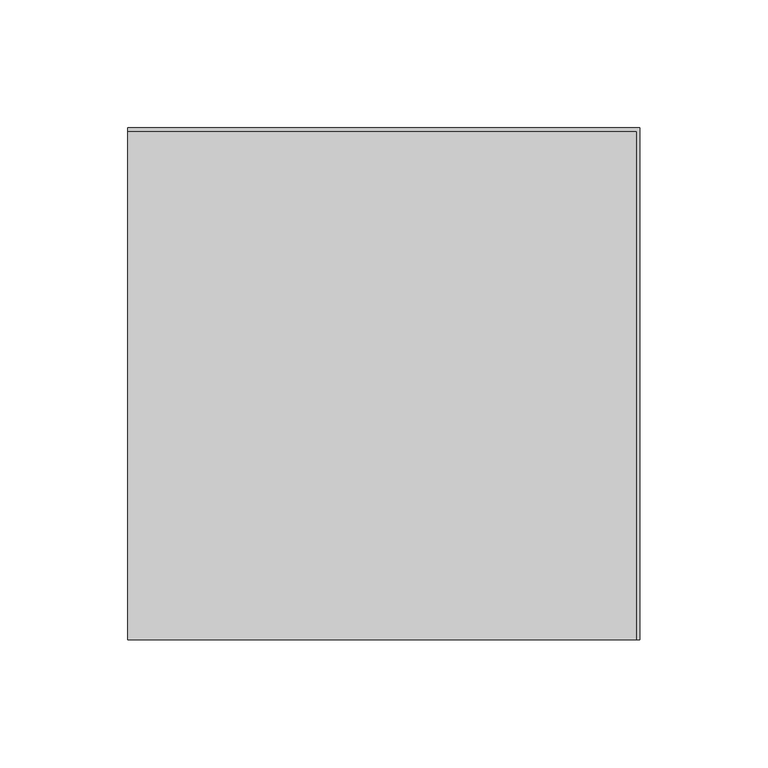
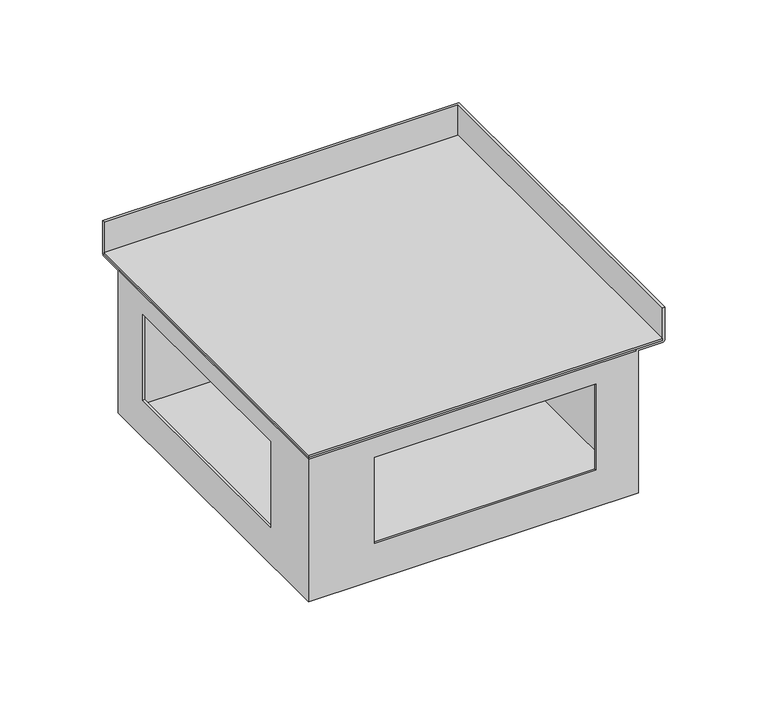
"""IFC4 building model written with IfcOpenShell, lengths in millimetres: proxy geometry, TECHNO_Угловой элемент_KVU : 200_105_90°."""

from ifc_helpers import new_model, si_unit, frame, origin, place, context, project, spatial, polyline, circle_curve, ellipse_curve, outline, extrude, source, transform, mapped, element, save
from ifc_brep_helpers import plane_surface, cylinder_surface, advanced_brep


def mechanical_equipment_9d287563(model_context):
    return source(origin(), model_context, "Body", "SolidModel", [
        extrude(outline(polyline([(0.0, 98.8), (198.8, 98.8), (198.8, -100.0), (0.0, -100.0), (0.0, 98.8)])), frame((0.0, 0.0, -19.3), z_axis=(0.0, 0.0, 1.0), x_axis=(1.0, 0.0, 0.0)), (0.0, 0.0, 1.0), 1.2),
        advanced_brep(
        [(1.2, 84.0, -103.8), (1.2, -98.8, -103.8), (184.0, -98.8, -103.8), (184.0, 84.0, -103.8), (0.0, 85.2, -105.0), (185.2, 85.2, -105.0), (185.2, -100.0, -105.0), (0.0, -100.0, -105.0), (0.0, 85.2, -20.5), (0.0, -100.0, -20.5), (0.0, 84.0, -20.5), (0.0, 85.2, -19.3), (0.0, 98.8, -19.3), (0.0, 98.8, 0.0), (0.0, 100.0, 0.0), (0.0, 100.0, -19.3), (0.0, 98.8, -20.5), (0.0, -63.0, -32.2), (0.0, -63.0, -83.2), (0.0, 61.4, -83.2), (0.0, 61.4, -32.2), (185.2, -100.0, -20.5), (198.8, -100.0, -20.5), (200.0, -100.0, -19.3), (200.0, -100.0, 0.0), (198.8, -100.0, 0.0), (198.8, -100.0, -19.3), (185.2, -100.0, -19.3), (184.0, -100.0, -20.5), (37.0, -100.0, -83.2), (37.0, -100.0, -32.2), (161.4, -100.0, -32.2), (161.4, -100.0, -83.2), (185.2, 85.2, -20.5), (1.2, 85.2, -19.3), (1.2, -98.8, -19.3), (185.2, -98.8, -19.3), (198.8, 98.8, -19.3), (185.2, -84.0, -19.3), (16.0, -84.0, -19.3), (16.0, 85.2, -19.3), (185.2, 85.2, -19.3), (16.0, -84.0, -20.5), (16.0, 84.0, -20.5), (184.0, -84.0, -20.5), (184.0, -98.8, -20.5), (1.2, -98.8, -20.5), (1.2, 84.0, -20.5), (1.2, -63.0, -83.2), (1.2, -63.0, -32.2), (1.2, 61.4, -32.2), (1.2, 61.4, -83.2), (37.0, -98.8, -32.2), (37.0, -98.8, -83.2), (161.4, -98.8, -83.2), (161.4, -98.8, -32.2), (200.0, 100.0, -19.3), (200.0, 100.0, 0.0), (198.8, 98.8, 0.0), (198.8, 98.8, -20.5), (184.0, 84.0, -20.5)],
        [
            (0, 1),
            (1, 2),
            (2, 3),
            (3, 0),
            (4, 5),
            (5, 6),
            (6, 7),
            (7, 4),
            (8, 4),
            (7, 9),
            (9, 10),
            (10, 11, circle_curve(frame((0.0, 85.2, -20.5), z_axis=(-1.0, 0.0, 0.0), x_axis=(0.0, -1.0, 0.0)), 1.2)),
            (11, 12),
            (12, 13),
            (13, 14),
            (14, 15),
            (15, 16, circle_curve(frame((0.0, 98.8, -19.3), z_axis=(-1.0, 0.0, 0.0), x_axis=(0.0, -1.0, 0.0)), 1.2)),
            (16, 8),
            (17, 18),
            (18, 19),
            (19, 20),
            (20, 17),
            (6, 21),
            (21, 22),
            (22, 23, circle_curve(frame((198.8, -100.0, -19.3), z_axis=(0.0, -1.0, 0.0), x_axis=(-1.0, 0.0, 0.0)), 1.2)),
            (23, 24),
            (24, 25),
            (25, 26),
            (26, 27),
            (27, 28, circle_curve(frame((185.2, -100.0, -20.5), z_axis=(0.0, -1.0, 0.0), x_axis=(-1.0, 0.0, 0.0)), 1.2)),
            (28, 9),
            (29, 30),
            (30, 31),
            (31, 32),
            (32, 29),
            (8, 33),
            (33, 5),
            (33, 21),
            (34, 35),
            (35, 36),
            (36, 27),
            (26, 37),
            (37, 12),
            (11, 34),
            (38, 39),
            (39, 40),
            (40, 41),
            (41, 38),
            (39, 42),
            (42, 43),
            (43, 40, circle_curve(frame((16.0, 85.2, -20.5), z_axis=(-1.0, 0.0, 0.0), x_axis=(0.0, -1.0, 0.0)), 1.2)),
            (38, 44, circle_curve(frame((185.2, -84.0, -20.5), z_axis=(0.0, -1.0, 0.0), x_axis=(-1.0, 0.0, 0.0)), 1.2)),
            (44, 42),
            (44, 45),
            (45, 46),
            (46, 47),
            (47, 43),
            (46, 1),
            (0, 47),
            (48, 49),
            (49, 50),
            (50, 51),
            (51, 48),
            (45, 2),
            (52, 53),
            (53, 54),
            (54, 55),
            (55, 52),
            (34, 10, ellipse_curve(frame((1.2, 85.2, -20.5), z_axis=(0.7071067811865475, -0.7071067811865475, 0.0), x_axis=(0.7071067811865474, 0.7071067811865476, 0.0)), 1.6970563, 1.2)),
            (9, 35, ellipse_curve(frame((1.2, -98.8, -20.5), z_axis=(-0.7071067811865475, 0.7071067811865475, 0.0), x_axis=(0.7071067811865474, 0.7071067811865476, 0.0)), 1.6970563, 1.2)),
            (28, 36, ellipse_curve(frame((185.2, -98.8, -20.5), z_axis=(-0.7071067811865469, 0.7071067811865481, 0.0), x_axis=(-0.7071067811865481, -0.7071067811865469, 0.0)), 1.6970563, 1.2)),
            (23, 56),
            (56, 57),
            (57, 24),
            (57, 14),
            (13, 58),
            (58, 25),
            (58, 37),
            (16, 59),
            (59, 22),
            (59, 56, ellipse_curve(frame((198.8, 98.8, -19.3), z_axis=(0.7071067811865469, -0.7071067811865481, 0.0), x_axis=(-0.7071067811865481, -0.7071067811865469, 0.0)), 1.6970563, 1.2)),
            (56, 15),
            (41, 60, ellipse_curve(frame((185.2, 85.2, -20.5), z_axis=(0.7071067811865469, -0.7071067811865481, 0.0), x_axis=(-0.7071067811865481, -0.7071067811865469, 0.0)), 1.6970563, 1.2)),
            (60, 44),
            (60, 3),
            (43, 60),
            (48, 18),
            (17, 49),
            (51, 19),
            (50, 20),
            (52, 30),
            (29, 53),
            (55, 31),
            (54, 32),
        ],
        [
            plane_surface(frame((0.0, 84.0, -103.8), z_axis=(0.0, 0.0, 1.0), x_axis=(0.0, -1.0, 0.0))),
            plane_surface(frame((0.0, 84.0, -105.0), z_axis=(0.0, 0.0, -1.0), x_axis=(0.0, 1.0, 0.0))),
            plane_surface(frame((0.0, 84.0, -103.8), z_axis=(-1.0, 0.0, 0.0), x_axis=(0.0, 0.0, -1.0))),
            plane_surface(frame((0.0, -100.0, -103.8), z_axis=(0.0, -1.0, 0.0), x_axis=(0.0, 0.0, -1.0))),
            plane_surface(frame((0.0, 85.2, -105.0), z_axis=(0.0, 1.0, 0.0), x_axis=(0.0, 0.0, -1.0))),
            plane_surface(frame((185.2, -100.0, -105.0), z_axis=(1.0, 0.0, 0.0), x_axis=(0.0, 0.0, -1.0))),
            plane_surface(frame((1.2, 85.2, -19.3), z_axis=(0.0, 0.0, 1.0), x_axis=(0.0, -1.0, 0.0))),
            plane_surface(frame((16.0, 85.2, -19.3), z_axis=(1.0, 0.0, 0.0), x_axis=(0.0, -1.0, 0.0))),
            plane_surface(frame((16.0, -84.0, -19.3), z_axis=(0.0, 1.0, 0.0), x_axis=(1.0, 0.0, 0.0))),
            plane_surface(frame((16.0, 85.2, -20.5), z_axis=(0.0, 0.0, -1.0), x_axis=(0.0, -1.0, 0.0))),
            plane_surface(frame((1.2, 85.2, -20.5), z_axis=(1.0, 0.0, 0.0), x_axis=(0.0, -1.0, 0.0))),
            plane_surface(frame((1.2, -98.8, -20.5), z_axis=(0.0, 1.0, 0.0), x_axis=(1.0, 0.0, 0.0))),
            cylinder_surface(frame((1.2, 85.2, -20.5), z_axis=(0.0, 1.0, 0.0), x_axis=(-1.0, 0.0, 0.0)), 1.2),
            cylinder_surface(frame((0.0, -98.8, -20.5), z_axis=(-1.0, 0.0, 0.0), x_axis=(0.0, -1.0, 0.0)), 1.2),
            plane_surface(frame((200.0, -100.0, -19.3), z_axis=(1.0, 0.0, 0.0), x_axis=(0.0, 1.0, 0.0))),
            plane_surface(frame((200.0, -100.0, 0.0), z_axis=(0.0, 0.0, 1.0), x_axis=(0.0, 1.0, 0.0))),
            plane_surface(frame((198.8, -100.0, 0.0), z_axis=(-1.0, 0.0, 0.0), x_axis=(0.0, 1.0, 0.0))),
            plane_surface(frame((185.2, -100.0, -20.5), z_axis=(0.0, 0.0, -1.0), x_axis=(0.0, 1.0, 0.0))),
            cylinder_surface(frame((198.8, -100.0, -19.3), z_axis=(0.0, -1.0, 0.0), x_axis=(-1.0, 0.0, 0.0)), 1.2),
            plane_surface(frame((200.0, 100.0, -19.3), z_axis=(0.0, 1.0, 0.0), x_axis=(-1.0, 0.0, 0.0))),
            plane_surface(frame((198.8, 98.8, 0.0), z_axis=(0.0, -1.0, 0.0), x_axis=(-1.0, 0.0, 0.0))),
            cylinder_surface(frame((100.0, 98.8, -19.3), z_axis=(1.0, 0.0, 0.0), x_axis=(0.0, -1.0, 0.0)), 1.2),
            cylinder_surface(frame((185.2, -100.0, -20.5), z_axis=(0.0, -1.0, 0.0), x_axis=(-1.0, 0.0, 0.0)), 1.2),
            plane_surface(frame((184.0, -100.0, -20.5), z_axis=(-1.0, 0.0, 0.0), x_axis=(0.0, 1.0, 0.0))),
            cylinder_surface(frame((100.0, 85.2, -20.5), z_axis=(1.0, 0.0, 0.0), x_axis=(0.0, -1.0, 0.0)), 1.2),
            plane_surface(frame((184.0, 84.0, -20.5), z_axis=(0.0, -1.0, 0.0), x_axis=(-1.0, 0.0, 0.0))),
            plane_surface(frame((1.2, -63.0, -32.2), z_axis=(0.0, 1.0, 0.0), x_axis=(-1.0, 0.0, 0.0))),
            plane_surface(frame((1.2, -63.0, -83.2), z_axis=(0.0, 0.0, 1.0), x_axis=(-1.0, 0.0, 0.0))),
            plane_surface(frame((1.2, 61.4, -83.2), z_axis=(0.0, -1.0, 0.0), x_axis=(-1.0, 0.0, 0.0))),
            plane_surface(frame((1.2, 61.4, -32.2), z_axis=(0.0, 0.0, -1.0), x_axis=(-1.0, 0.0, 0.0))),
            plane_surface(frame((37.0, -98.8, -83.2), z_axis=(1.0, 0.0, 0.0), x_axis=(0.0, -1.0, 0.0))),
            plane_surface(frame((37.0, -98.8, -32.2), z_axis=(0.0, 0.0, -1.0), x_axis=(0.0, -1.0, 0.0))),
            plane_surface(frame((161.4, -98.8, -32.2), z_axis=(-1.0, 0.0, 0.0), x_axis=(0.0, -1.0, 0.0))),
            plane_surface(frame((161.4, -98.8, -83.2), z_axis=(0.0, 0.0, 1.0), x_axis=(0.0, -1.0, 0.0))),
        ],
        [
            (0, [[1, 2, 3, 4]]),
            (1, [[5, 6, 7, 8]]),
            (2, [[9, -8, 10, 11, 12, 13, 14, 15, 16, 17, 18], [19, 20, 21, 22]]),
            (3, [[23, 24, 25, 26, 27, 28, 29, 30, 31, -10, -7], [32, 33, 34, 35]]),
            (4, [[-9, 36, 37, -5]]),
            (5, [[-23, -6, -37, 38]]),
            (6, [[39, 40, 41, -29, 42, 43, -13, 44], [45, 46, 47, 48]]),
            (7, [[-46, 49, 50, 51]]),
            (8, [[-45, 52, 53, -49]]),
            (9, [[-50, -53, 54, 55, 56, 57]]),
            (10, [[58, -1, 59, -56], [60, 61, 62, 63]]),
            (11, [[-58, -55, 64, -2], [65, 66, 67, 68]]),
            (12, [[-39, 69, -11, 70]]),
            (13, [[-40, -70, -31, 71]]),
            (14, [[-26, 72, 73, 74]]),
            (15, [[-27, -74, 75, -15, 76, 77]]),
            (16, [[-28, -77, 78, -42]]),
            (17, [[-24, -38, -36, -18, 79, 80]]),
            (18, [[-25, -80, 81, -72]]),
            (19, [[-73, 82, -16, -75]]),
            (20, [[-76, -14, -43, -78]]),
            (21, [[-79, -17, -82, -81]]),
            (22, [[-30, -41, -71]]),
            (22, [[83, 84, -52, -48]]),
            (23, [[85, -3, -64, -54, -84]]),
            (24, [[-12, -69, -44]]),
            (24, [[-83, -47, -51, 86]]),
            (25, [[-85, -86, -57, -59, -4]]),
            (26, [[87, -19, 88, -60]]),
            (27, [[-87, -63, 89, -20]]),
            (28, [[-89, -62, 90, -21]]),
            (29, [[-88, -22, -90, -61]]),
            (30, [[91, -32, 92, -65]]),
            (31, [[-91, -68, 93, -33]]),
            (32, [[-93, -67, 94, -34]]),
            (33, [[-92, -35, -94, -66]]),
        ],
    ),
    ])


if __name__ == "__main__":
    model = new_model("IFC4")
    model_context = context("Model", 3, world=origin())
    ifc_project = project(units=[si_unit("LENGTHUNIT", "METRE", prefix="MILLI")], contexts=[model_context])
    site = spatial("IfcSite", under=ifc_project)
    building = spatial("IfcBuilding", under=site)
    placement = place(None, origin())
    mechanical_equipment_shape = mechanical_equipment_9d287563(model_context)
    element("IfcBuildingElementProxy", 1, Name="TECHNO_Угловой элемент_KVU : 200_105_90°", ObjectType="TECHNO_Угловой элемент_KVU : 200_105_90°", at=placement, inside=building, context=model_context, shape_type="MappedRepresentation", body=[
        mapped(mechanical_equipment_shape, transform((0.0, 0.0, 0.0), x_axis=(1.0, 0.0, 0.0), y_axis=(0.0, 1.0, 0.0), z_axis=(0.0, 0.0, 1.0))),
    ])
    save(model, "model.ifc")
